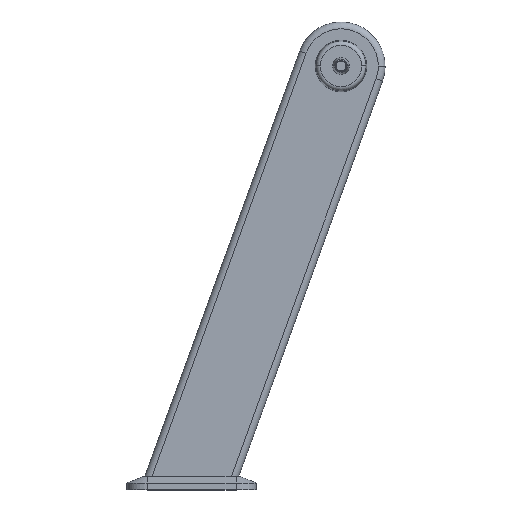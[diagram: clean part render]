
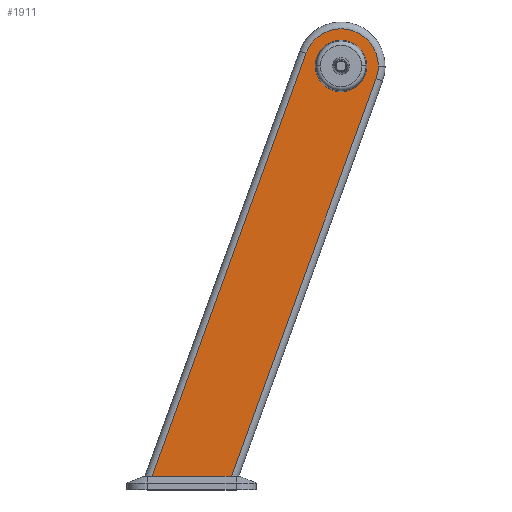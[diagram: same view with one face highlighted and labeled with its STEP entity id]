
A CAD part, top view. The second image highlights one B-rep face of the part: STEP entity #1911.
In plain terms, the highlighted planar face has unit normal (0, 0, 1).
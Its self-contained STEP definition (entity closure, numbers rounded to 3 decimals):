
#36 = DIRECTION ( 'NONE',  ( 0., 0., 1. ) ) ;
#114 = EDGE_CURVE ( 'NONE', #2496, #1000, #2498, .T. ) ;
#192 = CARTESIAN_POINT ( 'NONE',  ( 0., 0., 31.25 ) ) ;
#247 = EDGE_CURVE ( 'NONE', #2429, #2496, #1239, .T. ) ;
#284 = AXIS2_PLACEMENT_3D ( 'NONE', #192, #1986, #453 ) ;
#291 = EDGE_CURVE ( 'NONE', #3145, #2429, #2537, .T. ) ;
#310 = CARTESIAN_POINT ( 'NONE',  ( -161.672, -605., 31.25 ) ) ;
#346 = FACE_BOUND ( 'NONE', #1166, .T. ) ;
#431 = CIRCLE ( 'NONE', #2067, 38. ) ;
#453 = DIRECTION ( 'NONE',  ( 1., 0., 0. ) ) ;
#486 = VECTOR ( 'NONE', #1292, 1000. ) ;
#552 = DIRECTION ( 'NONE',  ( 1., 0., 0. ) ) ;
#557 = VECTOR ( 'NONE', #1800, 1000. ) ;
#647 = VERTEX_POINT ( 'NONE', #1348 ) ;
#842 = CARTESIAN_POINT ( 'NONE',  ( -51.683, 18.811, 31.25 ) ) ;
#1000 = VERTEX_POINT ( 'NONE', #2759 ) ;
#1004 = AXIS2_PLACEMENT_3D ( 'NONE', #2756, #1207, #3016 ) ;
#1019 = ORIENTED_EDGE ( 'NONE', *, *, #2349, .F. ) ;
#1065 = DIRECTION ( 'NONE',  ( 0., 0., 1. ) ) ;
#1099 = DIRECTION ( 'NONE',  ( -0.342, -0.94, 0. ) ) ;
#1166 = EDGE_LOOP ( 'NONE', ( #2705, #1019 ) ) ;
#1207 = DIRECTION ( 'NONE',  ( 0., 0., 1. ) ) ;
#1239 = LINE ( 'NONE', #1278, #557 ) ;
#1241 = ORIENTED_EDGE ( 'NONE', *, *, #291, .T. ) ;
#1278 = CARTESIAN_POINT ( 'NONE',  ( 51.683, -18.811, 31.25 ) ) ;
#1292 = DIRECTION ( 'NONE',  ( 1., 0., 0. ) ) ;
#1348 = CARTESIAN_POINT ( 'NONE',  ( 38., 0., 31.25 ) ) ;
#1373 = EDGE_CURVE ( 'NONE', #2017, #3145, #3333, .T. ) ;
#1545 = AXIS2_PLACEMENT_3D ( 'NONE', #1569, #36, #1831 ) ;
#1569 = CARTESIAN_POINT ( 'NONE',  ( 0., 0., 31.25 ) ) ;
#1572 = CARTESIAN_POINT ( 'NONE',  ( 0., 0., 31.25 ) ) ;
#1620 = CARTESIAN_POINT ( 'NONE',  ( -287.256, -628.42, 31.25 ) ) ;
#1673 = AXIS2_PLACEMENT_3D ( 'NONE', #1572, #2093, #552 ) ;
#1709 = FACE_OUTER_BOUND ( 'NONE', #2434, .T. ) ;
#1727 = CARTESIAN_POINT ( 'NONE',  ( 51.683, -18.811, 31.25 ) ) ;
#1784 = CARTESIAN_POINT ( 'NONE',  ( -278.732, -605., 31.25 ) ) ;
#1800 = DIRECTION ( 'NONE',  ( 0.342, 0.94, 0. ) ) ;
#1831 = DIRECTION ( 'NONE',  ( 1., 0., 0. ) ) ;
#1872 = VECTOR ( 'NONE', #1099, 1000. ) ;
#1911 = ADVANCED_FACE ( 'NONE', ( #1709, #346 ), #2348, .T. ) ;
#1986 = DIRECTION ( 'NONE',  ( 0., 0., 1. ) ) ;
#2017 = VERTEX_POINT ( 'NONE', #842 ) ;
#2067 = AXIS2_PLACEMENT_3D ( 'NONE', #2620, #1065, #2879 ) ;
#2071 = CIRCLE ( 'NONE', #284, 55. ) ;
#2093 = DIRECTION ( 'NONE',  ( 0., 0., 1. ) ) ;
#2256 = ORIENTED_EDGE ( 'NONE', *, *, #114, .T. ) ;
#2348 = PLANE ( 'NONE',  #1673 ) ;
#2349 = EDGE_CURVE ( 'NONE', #3226, #647, #3158, .T. ) ;
#2354 = CARTESIAN_POINT ( 'NONE',  ( -38., 0., 31.25 ) ) ;
#2393 = EDGE_CURVE ( 'NONE', #647, #3226, #431, .T. ) ;
#2429 = VERTEX_POINT ( 'NONE', #310 ) ;
#2434 = EDGE_LOOP ( 'NONE', ( #2951, #2256, #3031, #2807, #1241 ) ) ;
#2491 = EDGE_CURVE ( 'NONE', #1000, #2017, #2071, .T. ) ;
#2496 = VERTEX_POINT ( 'NONE', #1727 ) ;
#2498 = CIRCLE ( 'NONE', #1004, 55. ) ;
#2537 = LINE ( 'NONE', #2844, #486 ) ;
#2620 = CARTESIAN_POINT ( 'NONE',  ( 0., 0., 31.25 ) ) ;
#2705 = ORIENTED_EDGE ( 'NONE', *, *, #2393, .F. ) ;
#2756 = CARTESIAN_POINT ( 'NONE',  ( 0., 0., 31.25 ) ) ;
#2759 = CARTESIAN_POINT ( 'NONE',  ( 55., 0., 31.25 ) ) ;
#2807 = ORIENTED_EDGE ( 'NONE', *, *, #1373, .T. ) ;
#2844 = CARTESIAN_POINT ( 'NONE',  ( 0., -605., 31.25 ) ) ;
#2879 = DIRECTION ( 'NONE',  ( 1., 0., 0. ) ) ;
#2951 = ORIENTED_EDGE ( 'NONE', *, *, #247, .T. ) ;
#3016 = DIRECTION ( 'NONE',  ( 1., 0., 0. ) ) ;
#3031 = ORIENTED_EDGE ( 'NONE', *, *, #2491, .T. ) ;
#3145 = VERTEX_POINT ( 'NONE', #1784 ) ;
#3158 = CIRCLE ( 'NONE', #1545, 38. ) ;
#3226 = VERTEX_POINT ( 'NONE', #2354 ) ;
#3333 = LINE ( 'NONE', #1620, #1872 ) ;
